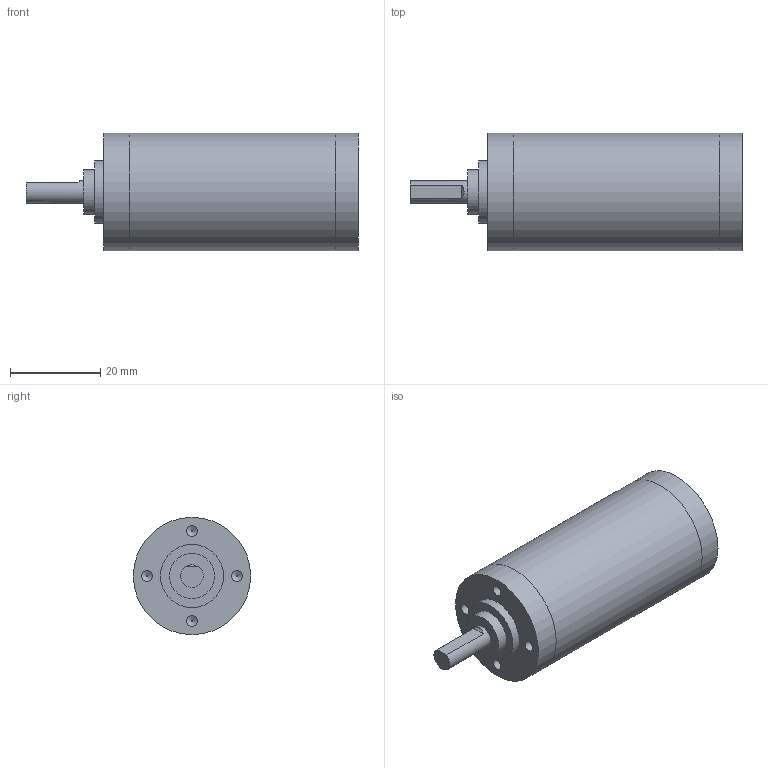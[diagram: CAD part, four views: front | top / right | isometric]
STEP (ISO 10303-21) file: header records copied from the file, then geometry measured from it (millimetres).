
FILE_DESCRIPTION(('Bauteilbeschreibung','HiCAD-Model','HiCAD-STEP-TRANSLATION','Bauteilbeschreibung'),'2;1');
FILE_NAME('P:/PRIVAT/BJA/KATOLOG_STEP_DATEIEN/GP26B/GP26B_5-STUFIG.STP','2004-12-08T13:53:07+00:00',('Konstrukteur'),('Konstrukteur Firma GmbH'),'HiCAD2 V1102 STEP 20.9.2001','HiCAD2 V1102','confidential');
FILE_SCHEMA(('AUTOMOTIVE_DESIGN { 1 2 10303 214 0 1 1 1 }'));
Length unit declared in the file: millimetre
Products named in the file (2): A01_000X; A010000X
Assembly tree (1 placements, depth 2):
  A01_000X
    A010000X
Bounding box: 73.7 x 26 x 26 mm (x, y, z)
Volume: 29866.6 mm3; surface area: 6555.4 mm2
Topology: 1 solids, 1 shells, 33 faces, 61 edges, 41 vertices
Faces by surface type: plane 15, cylinder 14, cone 4
Full cylindrical faces by diameter (mm): 2.1 x3, 2.39 x4, 5 x1, 10 x2, 14 x1, 26 x3
Entity records: 1158 total; most frequent: DIRECTION 136, CARTESIAN_POINT 103, ORIENTED_EDGE 70, COLOUR_RGB 69, PRESENTATION_STYLE_ASSIGNMENT 69, OVER_RIDING_STYLED_ITEM 68, AXIS2_PLACEMENT_3D 66, EDGE_LOOP 62
